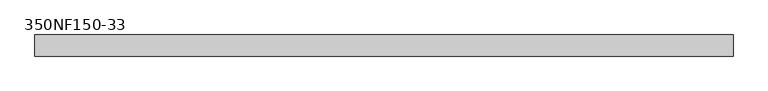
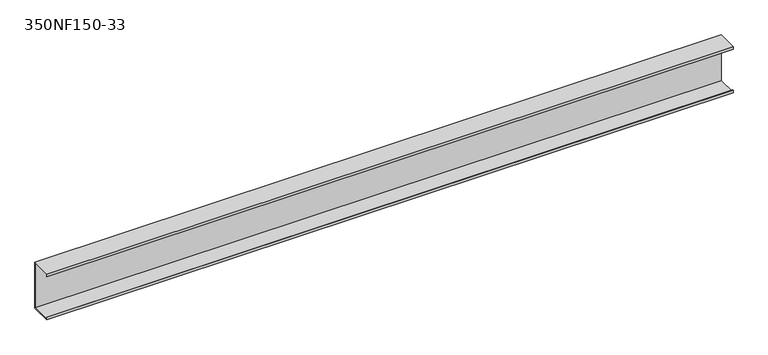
"""IFC4 building model written with IfcOpenShell, lengths in millimetres: beam geometry, BIMSF-SSMA-S : 350NF150-33."""

from ifc_helpers import new_model, si_unit, frame, origin, place, context, project, spatial, polyline, outline, extrude, source, transform, mapped, element, save


def beam_350nf150_33_a1fc3611(model_context):
    return source(origin(), model_context, "Body", "SweptSolid", [
        extrude(outline(polyline([(19.05, 44.45), (19.05, -44.45), (-19.05, -44.45), (-19.05, -39.6748), (-18.1676842, -39.6748), (-18.1676842, -43.5676842), (18.1676842, -43.5676842), (18.1676842, 43.5676842), (-18.1676842, 43.5676842), (-18.1676842, 39.6748), (-19.05, 39.6748), (-19.05, 44.45), (19.05, 44.45)])), frame((-629.0181836, 0.0, 0.0), z_axis=(1.0, 0.0, 0.0), x_axis=(0.0, 1.0, 0.0)), (0.0, 0.0, 1.0), 1258.0363672),
    ])


if __name__ == "__main__":
    model = new_model("IFC4")
    model_context = context("Model", 3, world=origin())
    ifc_project = project(units=[si_unit("LENGTHUNIT", "METRE", prefix="MILLI")], contexts=[model_context])
    site = spatial("IfcSite", under=ifc_project)
    building = spatial("IfcBuilding", under=site)
    placement = place(None, origin())
    beam_350nf150_33_shape = beam_350nf150_33_a1fc3611(model_context)
    element("IfcBeam", 1, ObjectType="BIMSF-SSMA-S : 350NF150-33", at=placement, inside=building, context=model_context, shape_type="MappedRepresentation", body=[
        mapped(beam_350nf150_33_shape, transform((0.0, 0.0, 0.0), x_axis=(1.0, 0.0, 0.0), y_axis=(0.0, 1.0, 0.0), z_axis=(0.0, 0.0, 1.0))),
    ])
    save(model, "model.ifc")
